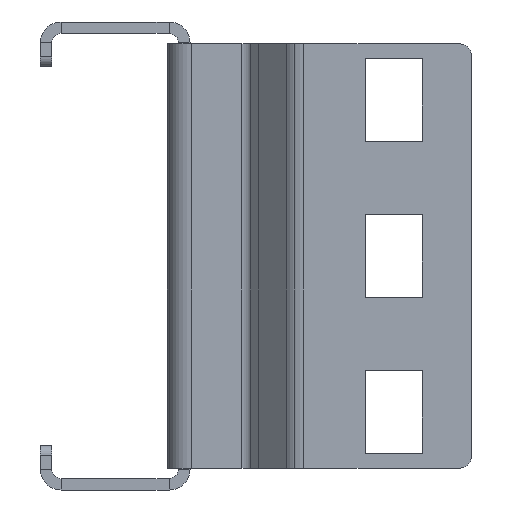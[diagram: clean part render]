
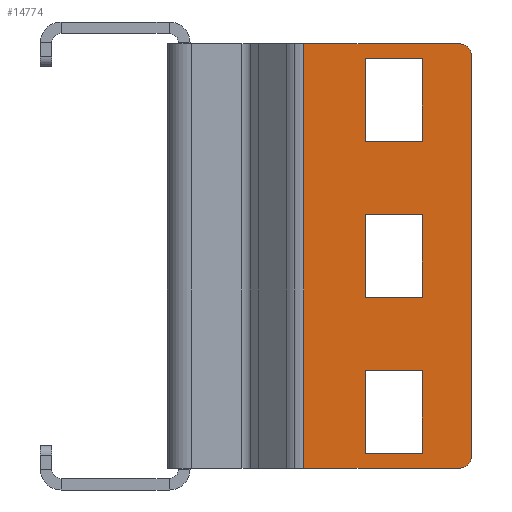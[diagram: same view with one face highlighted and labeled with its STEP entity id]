
A CAD part, front view. The second image highlights one B-rep face of the part: STEP entity #14774.
In plain terms, the highlighted planar face has unit normal (0, -1, 0).
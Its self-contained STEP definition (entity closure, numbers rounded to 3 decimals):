
#126 = DIRECTION ( 'NONE',  ( 0., 0., 1. ) ) ;
#537 = EDGE_CURVE ( 'NONE', #20329, #31200, #5231, .T. ) ;
#912 = CARTESIAN_POINT ( 'NONE',  ( 34., -7.5, 21.901 ) ) ;
#957 = DIRECTION ( 'NONE',  ( -1., 0., 0. ) ) ;
#1276 = VECTOR ( 'NONE', #12093, 1000. ) ;
#1344 = VECTOR ( 'NONE', #35334, 1000. ) ;
#1744 = CARTESIAN_POINT ( 'NONE',  ( 31.6, -7.5, 40.902 ) ) ;
#1748 = DIRECTION ( 'NONE',  ( 0., -1., 0. ) ) ;
#1992 = EDGE_CURVE ( 'NONE', #5954, #2066, #2161, .T. ) ;
#2031 = ORIENTED_EDGE ( 'NONE', *, *, #25191, .T. ) ;
#2066 = VERTEX_POINT ( 'NONE', #31851 ) ;
#2161 = LINE ( 'NONE', #6486, #1276 ) ;
#2227 = VECTOR ( 'NONE', #35093, 1000. ) ;
#2570 = CARTESIAN_POINT ( 'NONE',  ( 18.4, -7.5, 40.902 ) ) ;
#2629 = DIRECTION ( 'NONE',  ( 0., 0., 1. ) ) ;
#3160 = CARTESIAN_POINT ( 'NONE',  ( -6.6, -7.5, 40.902 ) ) ;
#3602 = ORIENTED_EDGE ( 'NONE', *, *, #31388, .T. ) ;
#3891 = LINE ( 'NONE', #7426, #25997 ) ;
#4082 = LINE ( 'NONE', #11122, #11108 ) ;
#4720 = VERTEX_POINT ( 'NONE', #2570 ) ;
#4934 = CARTESIAN_POINT ( 'NONE',  ( -18.4, -7.5, 31.702 ) ) ;
#5231 = LINE ( 'NONE', #13553, #10898 ) ;
#5954 = VERTEX_POINT ( 'NONE', #29335 ) ;
#6088 = CARTESIAN_POINT ( 'NONE',  ( 31.6, -7.5, 31.702 ) ) ;
#6217 = EDGE_CURVE ( 'NONE', #12209, #32147, #10516, .T. ) ;
#6486 = CARTESIAN_POINT ( 'NONE',  ( -18.4, -7.5, 31.702 ) ) ;
#6731 = ORIENTED_EDGE ( 'NONE', *, *, #23156, .T. ) ;
#6874 = VERTEX_POINT ( 'NONE', #33433 ) ;
#7255 = FACE_OUTER_BOUND ( 'NONE', #15881, .T. ) ;
#7426 = CARTESIAN_POINT ( 'NONE',  ( 34., -7.5, 48.802 ) ) ;
#7790 = ORIENTED_EDGE ( 'NONE', *, *, #1992, .T. ) ;
#8233 = VERTEX_POINT ( 'NONE', #23575 ) ;
#9164 = VERTEX_POINT ( 'NONE', #6088 ) ;
#9167 = DIRECTION ( 'NONE',  ( 0., 0., -1. ) ) ;
#9605 = LINE ( 'NONE', #24026, #2227 ) ;
#9667 = VECTOR ( 'NONE', #11844, 1000. ) ;
#10240 = VECTOR ( 'NONE', #18996, 1000. ) ;
#10516 = LINE ( 'NONE', #33354, #17029 ) ;
#10526 = DIRECTION ( 'NONE',  ( 0., 0., -1. ) ) ;
#10898 = VECTOR ( 'NONE', #35733, 1000. ) ;
#11108 = VECTOR ( 'NONE', #16699, 1000. ) ;
#11122 = CARTESIAN_POINT ( 'NONE',  ( -18.4, -7.5, 40.902 ) ) ;
#11844 = DIRECTION ( 'NONE',  ( 1., 0., 0. ) ) ;
#11952 = CARTESIAN_POINT ( 'NONE',  ( 6.6, -7.5, 31.702 ) ) ;
#12060 = CARTESIAN_POINT ( 'NONE',  ( -34., -7.5, 46.802 ) ) ;
#12093 = DIRECTION ( 'NONE',  ( -1., 0., 0. ) ) ;
#12209 = VERTEX_POINT ( 'NONE', #15831 ) ;
#12235 = VECTOR ( 'NONE', #29295, 1000. ) ;
#12911 = CARTESIAN_POINT ( 'NONE',  ( -32., -7.5, 46.802 ) ) ;
#13226 = LINE ( 'NONE', #16458, #27071 ) ;
#13267 = VECTOR ( 'NONE', #9167, 1000. ) ;
#13553 = CARTESIAN_POINT ( 'NONE',  ( 34., -7.5, 20.302 ) ) ;
#13632 = CARTESIAN_POINT ( 'NONE',  ( -34., -7.5, 21.901 ) ) ;
#13760 = EDGE_CURVE ( 'NONE', #32147, #8233, #32671, .T. ) ;
#14247 = LINE ( 'NONE', #912, #28103 ) ;
#14668 = FACE_BOUND ( 'NONE', #24499, .T. ) ;
#14774 = ADVANCED_FACE ( 'NONE', ( #35937, #29409, #14668, #7255 ), #23794, .T. ) ;
#14871 = DIRECTION ( 'NONE',  ( 0., -1., 0. ) ) ;
#14881 = CARTESIAN_POINT ( 'NONE',  ( 6.6, -7.5, 31.702 ) ) ;
#15572 = CARTESIAN_POINT ( 'NONE',  ( 34., -7.5, 20.302 ) ) ;
#15690 = DIRECTION ( 'NONE',  ( 0., 0., -1. ) ) ;
#15831 = CARTESIAN_POINT ( 'NONE',  ( -6.6, -7.5, 31.702 ) ) ;
#15867 = ORIENTED_EDGE ( 'NONE', *, *, #33047, .T. ) ;
#15871 = VECTOR ( 'NONE', #17673, 1000. ) ;
#15881 = EDGE_LOOP ( 'NONE', ( #26651, #31030, #15867, #19131, #35975, #26215 ) ) ;
#16458 = CARTESIAN_POINT ( 'NONE',  ( -31.6, -7.5, 31.702 ) ) ;
#16590 = EDGE_LOOP ( 'NONE', ( #27565, #26900, #6731, #24752 ) ) ;
#16627 = VERTEX_POINT ( 'NONE', #1744 ) ;
#16699 = DIRECTION ( 'NONE',  ( 1., 0., 0. ) ) ;
#17029 = VECTOR ( 'NONE', #126, 1000. ) ;
#17269 = CIRCLE ( 'NONE', #18984, 2. ) ;
#17527 = DIRECTION ( 'NONE',  ( -1., 0., 0. ) ) ;
#17584 = EDGE_LOOP ( 'NONE', ( #33985, #31076, #34334, #7790 ) ) ;
#17673 = DIRECTION ( 'NONE',  ( 0., 0., 1. ) ) ;
#17978 = AXIS2_PLACEMENT_3D ( 'NONE', #15572, #1748, #21124 ) ;
#18855 = ORIENTED_EDGE ( 'NONE', *, *, #25236, .T. ) ;
#18984 = AXIS2_PLACEMENT_3D ( 'NONE', #31497, #14871, #34301 ) ;
#18996 = DIRECTION ( 'NONE',  ( -1., 0., 0. ) ) ;
#19131 = ORIENTED_EDGE ( 'NONE', *, *, #25146, .T. ) ;
#20071 = CARTESIAN_POINT ( 'NONE',  ( 6.6, -7.5, 40.902 ) ) ;
#20329 = VERTEX_POINT ( 'NONE', #29374 ) ;
#20500 = VERTEX_POINT ( 'NONE', #13632 ) ;
#20588 = CARTESIAN_POINT ( 'NONE',  ( 6.6, -7.5, 31.702 ) ) ;
#21124 = DIRECTION ( 'NONE',  ( 0., 0., -1. ) ) ;
#21329 = LINE ( 'NONE', #14881, #35246 ) ;
#21364 = EDGE_CURVE ( 'NONE', #31200, #34783, #17269, .T. ) ;
#21765 = CARTESIAN_POINT ( 'NONE',  ( 31.6, -7.5, 31.702 ) ) ;
#22957 = EDGE_CURVE ( 'NONE', #2066, #26409, #13226, .T. ) ;
#23001 = EDGE_CURVE ( 'NONE', #26409, #35136, #4082, .T. ) ;
#23156 = EDGE_CURVE ( 'NONE', #8233, #30152, #27998, .T. ) ;
#23575 = CARTESIAN_POINT ( 'NONE',  ( 6.6, -7.5, 40.902 ) ) ;
#23794 = PLANE ( 'NONE',  #17978 ) ;
#24026 = CARTESIAN_POINT ( 'NONE',  ( 31.6, -7.5, 40.902 ) ) ;
#24084 = LINE ( 'NONE', #26000, #15871 ) ;
#24155 = AXIS2_PLACEMENT_3D ( 'NONE', #12911, #32304, #15690 ) ;
#24361 = LINE ( 'NONE', #26486, #12235 ) ;
#24499 = EDGE_LOOP ( 'NONE', ( #32816, #2031, #18855, #3602 ) ) ;
#24752 = ORIENTED_EDGE ( 'NONE', *, *, #26933, .T. ) ;
#25146 = EDGE_CURVE ( 'NONE', #29452, #25703, #25206, .T. ) ;
#25191 = EDGE_CURVE ( 'NONE', #4720, #16627, #9605, .T. ) ;
#25206 = CIRCLE ( 'NONE', #24155, 2. ) ;
#25236 = EDGE_CURVE ( 'NONE', #16627, #9164, #30860, .T. ) ;
#25703 = VERTEX_POINT ( 'NONE', #12060 ) ;
#25997 = VECTOR ( 'NONE', #26833, 1000. ) ;
#26000 = CARTESIAN_POINT ( 'NONE',  ( 18.4, -7.5, 31.702 ) ) ;
#26215 = ORIENTED_EDGE ( 'NONE', *, *, #29464, .F. ) ;
#26409 = VERTEX_POINT ( 'NONE', #34572 ) ;
#26486 = CARTESIAN_POINT ( 'NONE',  ( -34., -7.5, 20.302 ) ) ;
#26651 = ORIENTED_EDGE ( 'NONE', *, *, #537, .T. ) ;
#26833 = DIRECTION ( 'NONE',  ( -1., 0., 0. ) ) ;
#26900 = ORIENTED_EDGE ( 'NONE', *, *, #13760, .T. ) ;
#26933 = EDGE_CURVE ( 'NONE', #30152, #12209, #21329, .T. ) ;
#27040 = EDGE_CURVE ( 'NONE', #20500, #25703, #24361, .T. ) ;
#27071 = VECTOR ( 'NONE', #2629, 1000. ) ;
#27565 = ORIENTED_EDGE ( 'NONE', *, *, #6217, .T. ) ;
#27998 = LINE ( 'NONE', #11952, #13267 ) ;
#28103 = VECTOR ( 'NONE', #17527, 1000. ) ;
#28630 = EDGE_CURVE ( 'NONE', #35136, #5954, #32082, .T. ) ;
#29130 = CARTESIAN_POINT ( 'NONE',  ( 32., -7.5, 48.802 ) ) ;
#29295 = DIRECTION ( 'NONE',  ( 0., 0., 1. ) ) ;
#29335 = CARTESIAN_POINT ( 'NONE',  ( -18.4, -7.5, 31.702 ) ) ;
#29374 = CARTESIAN_POINT ( 'NONE',  ( 34., -7.5, 21.901 ) ) ;
#29409 = FACE_BOUND ( 'NONE', #16590, .T. ) ;
#29452 = VERTEX_POINT ( 'NONE', #31335 ) ;
#29464 = EDGE_CURVE ( 'NONE', #20329, #20500, #14247, .T. ) ;
#29745 = CARTESIAN_POINT ( 'NONE',  ( 31.6, -7.5, 31.702 ) ) ;
#30152 = VERTEX_POINT ( 'NONE', #20588 ) ;
#30723 = EDGE_CURVE ( 'NONE', #6874, #4720, #24084, .T. ) ;
#30860 = LINE ( 'NONE', #29745, #1344 ) ;
#30966 = CARTESIAN_POINT ( 'NONE',  ( 34., -7.5, 46.802 ) ) ;
#31030 = ORIENTED_EDGE ( 'NONE', *, *, #21364, .T. ) ;
#31076 = ORIENTED_EDGE ( 'NONE', *, *, #23001, .T. ) ;
#31200 = VERTEX_POINT ( 'NONE', #30966 ) ;
#31335 = CARTESIAN_POINT ( 'NONE',  ( -32., -7.5, 48.802 ) ) ;
#31388 = EDGE_CURVE ( 'NONE', #9164, #6874, #32375, .T. ) ;
#31497 = CARTESIAN_POINT ( 'NONE',  ( 32., -7.5, 46.802 ) ) ;
#31851 = CARTESIAN_POINT ( 'NONE',  ( -31.6, -7.5, 31.702 ) ) ;
#32082 = LINE ( 'NONE', #4934, #32962 ) ;
#32147 = VERTEX_POINT ( 'NONE', #3160 ) ;
#32304 = DIRECTION ( 'NONE',  ( 0., -1., 0. ) ) ;
#32375 = LINE ( 'NONE', #21765, #10240 ) ;
#32671 = LINE ( 'NONE', #20071, #9667 ) ;
#32816 = ORIENTED_EDGE ( 'NONE', *, *, #30723, .T. ) ;
#32962 = VECTOR ( 'NONE', #10526, 1000. ) ;
#33047 = EDGE_CURVE ( 'NONE', #34783, #29452, #3891, .T. ) ;
#33354 = CARTESIAN_POINT ( 'NONE',  ( -6.6, -7.5, 31.702 ) ) ;
#33433 = CARTESIAN_POINT ( 'NONE',  ( 18.4, -7.5, 31.702 ) ) ;
#33638 = CARTESIAN_POINT ( 'NONE',  ( -18.4, -7.5, 40.902 ) ) ;
#33985 = ORIENTED_EDGE ( 'NONE', *, *, #22957, .T. ) ;
#34301 = DIRECTION ( 'NONE',  ( 0., 0., -1. ) ) ;
#34334 = ORIENTED_EDGE ( 'NONE', *, *, #28630, .T. ) ;
#34572 = CARTESIAN_POINT ( 'NONE',  ( -31.6, -7.5, 40.902 ) ) ;
#34783 = VERTEX_POINT ( 'NONE', #29130 ) ;
#35093 = DIRECTION ( 'NONE',  ( 1., 0., 0. ) ) ;
#35136 = VERTEX_POINT ( 'NONE', #33638 ) ;
#35246 = VECTOR ( 'NONE', #957, 1000. ) ;
#35334 = DIRECTION ( 'NONE',  ( 0., 0., -1. ) ) ;
#35733 = DIRECTION ( 'NONE',  ( 0., 0., 1. ) ) ;
#35937 = FACE_BOUND ( 'NONE', #17584, .T. ) ;
#35975 = ORIENTED_EDGE ( 'NONE', *, *, #27040, .F. ) ;
